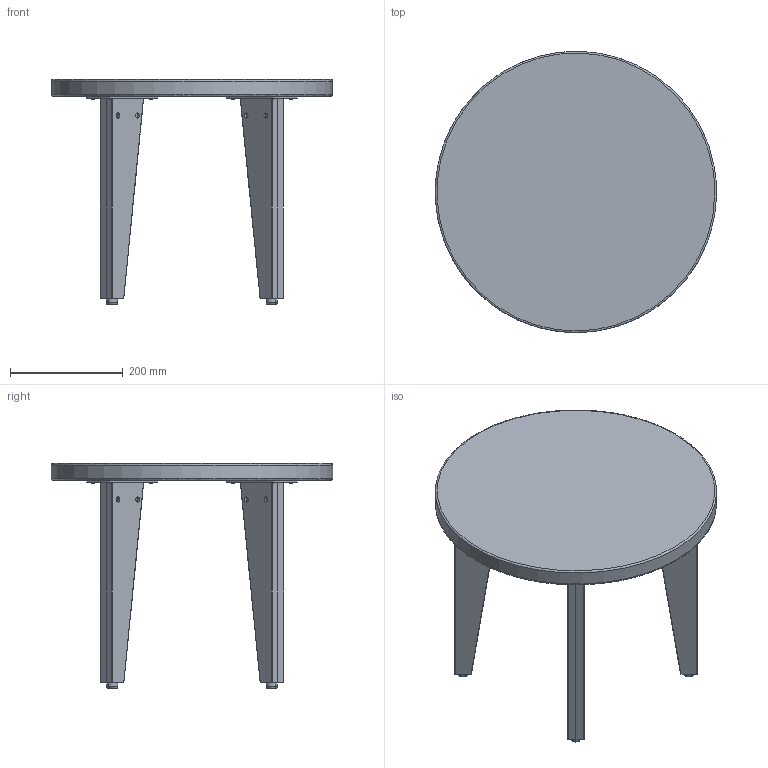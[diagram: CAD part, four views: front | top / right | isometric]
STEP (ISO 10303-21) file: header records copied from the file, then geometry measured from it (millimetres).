
FILE_DESCRIPTION(/* description */ (''),/* implementation_level */ '2;1');
FILE_NAME(/* name */ 'kinoshita_baobabland_kg-500Φ',/* time_stamp */ '2025-04-18T19:35:27+09:00',/* author */ (''),/* organization */ (''),/* preprocessor_version */ 'ST-DEVELOPER v16.5',/* originating_system */ '',/* authorisation */ '');
FILE_SCHEMA (('AUTOMOTIVE_DESIGN'));
Length unit declared in the file: millimetre
Products named in the file (1): Document
Bounding box: 499.65 x 499.97 x 400 mm (x, y, z)
Volume: 8400843.8 mm3; surface area: 737537.1 mm2
Topology: 5 solids, 5 shells, 317 faces, 671 edges, 396 vertices
Faces by surface type: bspline 219, plane 98
Entity records: 12115 total; most frequent: CARTESIAN_POINT 8028, ORIENTED_EDGE 1334, EDGE_CURVE 667, VERTEX_POINT 396, EDGE_LOOP 353, ADVANCED_FACE 317, FACE_OUTER_BOUND 317, B_SPLINE_CURVE_WITH_KNOTS 304
